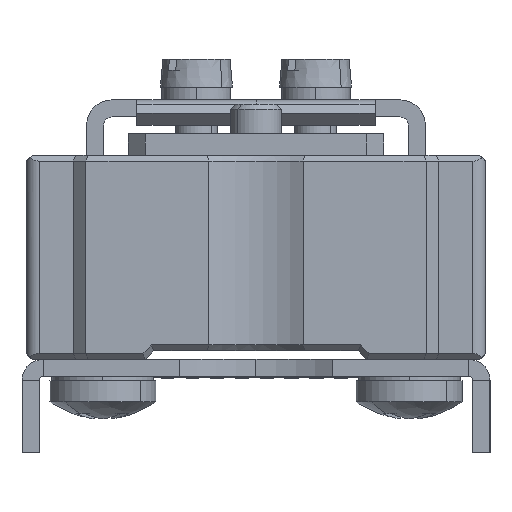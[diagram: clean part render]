
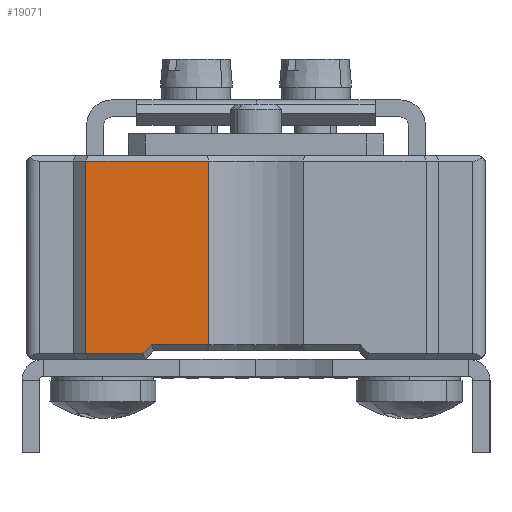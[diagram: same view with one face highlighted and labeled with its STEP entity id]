
A CAD part, left-side view. The second image highlights one B-rep face of the part: STEP entity #19071.
In plain terms, the highlighted planar face has unit normal (-1, 0, 0) as drawn and (0, -1, 0) by its records, which use the part's own axes.
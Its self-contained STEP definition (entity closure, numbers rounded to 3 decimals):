
#662 = ORIENTED_EDGE ( 'NONE', *, *, #17893, .T. ) ;
#1116 = LINE ( 'NONE', #37881, #26626 ) ;
#1551 = VERTEX_POINT ( 'NONE', #34026 ) ;
#2053 = EDGE_LOOP ( 'NONE', ( #14964, #41225, #15262, #41786, #662, #24300 ) ) ;
#4405 = VERTEX_POINT ( 'NONE', #18398 ) ;
#5369 = CARTESIAN_POINT ( 'NONE',  ( -13., -21., -23.3 ) ) ;
#7631 = DIRECTION ( 'NONE',  ( 0., 0., 1. ) ) ;
#8021 = VERTEX_POINT ( 'NONE', #26637 ) ;
#10132 = LINE ( 'NONE', #30730, #16135 ) ;
#10998 = CARTESIAN_POINT ( 'NONE',  ( -20., -21., -24. ) ) ;
#13020 = DIRECTION ( 'NONE',  ( 1., 0., 0. ) ) ;
#13362 = DIRECTION ( 'NONE',  ( 0., 0., -1. ) ) ;
#14463 = EDGE_CURVE ( 'NONE', #4405, #8021, #10132, .T. ) ;
#14653 = FACE_OUTER_BOUND ( 'NONE', #2053, .T. ) ;
#14964 = ORIENTED_EDGE ( 'NONE', *, *, #27432, .T. ) ;
#15062 = CARTESIAN_POINT ( 'NONE',  ( -20., -21., -23.3 ) ) ;
#15262 = ORIENTED_EDGE ( 'NONE', *, *, #19680, .F. ) ;
#15807 = VERTEX_POINT ( 'NONE', #27383 ) ;
#16135 = VECTOR ( 'NONE', #13020, 1000. ) ;
#16512 = VECTOR ( 'NONE', #31152, 1000. ) ;
#17893 = EDGE_CURVE ( 'NONE', #15807, #4405, #1116, .T. ) ;
#18398 = CARTESIAN_POINT ( 'NONE',  ( -12.29, -21., -22.3 ) ) ;
#18614 = VERTEX_POINT ( 'NONE', #15062 ) ;
#19071 = ADVANCED_FACE ( 'NONE', ( #14653 ), #34108, .T. ) ;
#19115 = LINE ( 'NONE', #31959, #33157 ) ;
#19680 = EDGE_CURVE ( 'NONE', #18614, #1551, #22722, .T. ) ;
#20433 = CARTESIAN_POINT ( 'NONE',  ( -5.545, -21., -24. ) ) ;
#20639 = DIRECTION ( 'NONE',  ( 0.707, 0., 0.707 ) ) ;
#22722 = LINE ( 'NONE', #10998, #23773 ) ;
#23518 = DIRECTION ( 'NONE',  ( 0., -1., 0. ) ) ;
#23773 = VECTOR ( 'NONE', #7631, 1000. ) ;
#24300 = ORIENTED_EDGE ( 'NONE', *, *, #14463, .T. ) ;
#24768 = EDGE_CURVE ( 'NONE', #40040, #1551, #19115, .T. ) ;
#25321 = EDGE_CURVE ( 'NONE', #18614, #15807, #34199, .T. ) ;
#26626 = VECTOR ( 'NONE', #20639, 1000. ) ;
#26637 = CARTESIAN_POINT ( 'NONE',  ( -5.545, -21., -22.3 ) ) ;
#26794 = LINE ( 'NONE', #20433, #16512 ) ;
#27383 = CARTESIAN_POINT ( 'NONE',  ( -13.29, -21., -23.3 ) ) ;
#27432 = EDGE_CURVE ( 'NONE', #8021, #40040, #26794, .T. ) ;
#29841 = VECTOR ( 'NONE', #43425, 1000. ) ;
#30730 = CARTESIAN_POINT ( 'NONE',  ( -5.545, -21., -22.3 ) ) ;
#31152 = DIRECTION ( 'NONE',  ( 0., 0., 1. ) ) ;
#31959 = CARTESIAN_POINT ( 'NONE',  ( -20., -21., -0.7 ) ) ;
#33157 = VECTOR ( 'NONE', #35754, 1000. ) ;
#34026 = CARTESIAN_POINT ( 'NONE',  ( -20., -21., -0.7 ) ) ;
#34108 = PLANE ( 'NONE',  #34266 ) ;
#34199 = LINE ( 'NONE', #5369, #29841 ) ;
#34266 = AXIS2_PLACEMENT_3D ( 'NONE', #34406, #23518, #13362 ) ;
#34406 = CARTESIAN_POINT ( 'NONE',  ( -20., -21., -24. ) ) ;
#35754 = DIRECTION ( 'NONE',  ( -1., 0., 0. ) ) ;
#37881 = CARTESIAN_POINT ( 'NONE',  ( -12.495, -21., -22.505 ) ) ;
#40040 = VERTEX_POINT ( 'NONE', #42163 ) ;
#41225 = ORIENTED_EDGE ( 'NONE', *, *, #24768, .T. ) ;
#41786 = ORIENTED_EDGE ( 'NONE', *, *, #25321, .T. ) ;
#42163 = CARTESIAN_POINT ( 'NONE',  ( -5.545, -21., -0.7 ) ) ;
#43425 = DIRECTION ( 'NONE',  ( 1., 0., 0. ) ) ;
